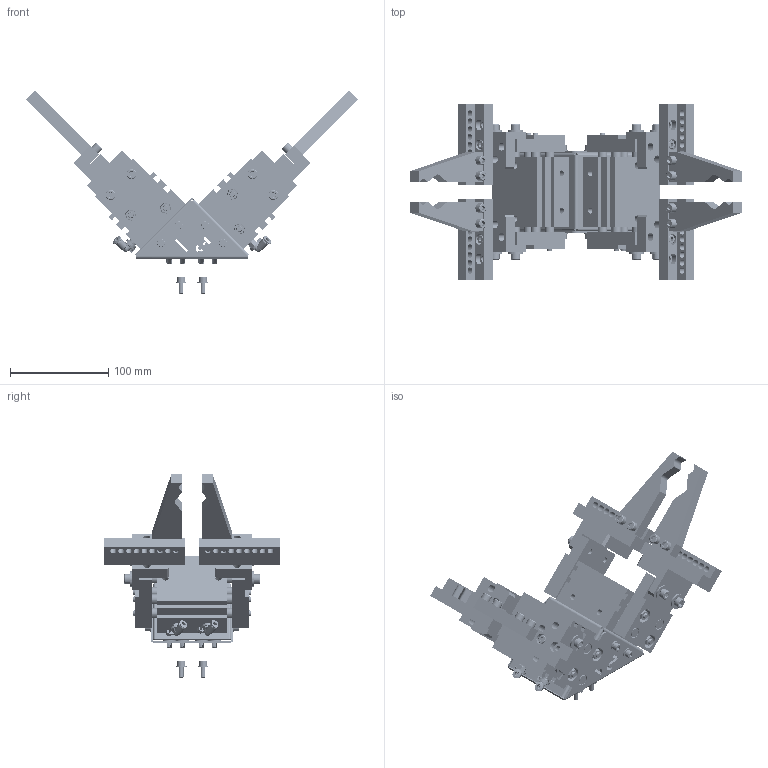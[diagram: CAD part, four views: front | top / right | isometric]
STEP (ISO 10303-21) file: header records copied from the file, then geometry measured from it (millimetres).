
FILE_DESCRIPTION (( 'STEP AP203' ), '1' );
FILE_NAME ('09-0613 SHAFT CLOSED.STEP', '2023-09-05T15:19:13', ( '' ), ( '' ), 'SwSTEP 2.0', 'SolidWorks 2022', '' );
FILE_SCHEMA (( 'CONFIG_CONTROL_DESIGN' ));
Length unit declared in the file: inch
Products named in the file (23): 70-0007; 10000094571_Standard; 45-0093; 10000128783; 40-0037; 10000220159; 10000154786_91290A228; 09-0613 SHAFT CLOSED; 10000133958; 45-0040; 10000214077_91239A316; 40-1626_40-1626; 10000206994; 40-0172; 10000016273; 10000136307; 10000133960; 70-0004; 10000006235_DEFAULT; 10000110266; 70-0008; 45-0064; 70-0016
Assembly tree (96 placements, depth 2):
  09-0613 SHAFT CLOSED
    10000133958  x2
    10000220159
    10000133960
    10000136307  x4
    45-0093  x4
    10000154786_91290A228  x4
    10000006235_DEFAULT  x8
    45-0040  x8
    40-1626_40-1626  x8
    45-0064  x8
    40-0037  x8
    10000206994  x4
    10000214077_91239A316  x4
    10000094571_Standard  x4
    70-0008
    70-0007
    70-0004
    70-0016
    10000110266  x4
    10000128783  x4
    10000016273  x8
    40-0172  x8
Bounding box: 337.44 x 178.75 x 206.5 mm (x, y, z)
Volume: 1058186.4 mm3; surface area: 351195.6 mm2
Topology: 108 solids, 108 shells, 3570 faces, 8608 edges, 5464 vertices
Faces by surface type: cylinder 1708, plane 1140, cone 612, bspline 62, torus 28, sphere 20
Entity records: 42894 total; most frequent: CARTESIAN_POINT 12279, DIRECTION 5518, ORIENTED_EDGE 5342, EDGE_CURVE 2671, AXIS2_PLACEMENT_3D 2069, VERTEX_POINT 1700, LINE 1380, VECTOR 1380
